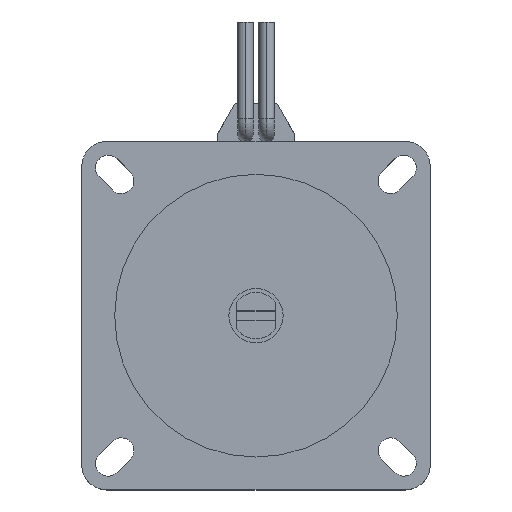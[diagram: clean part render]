
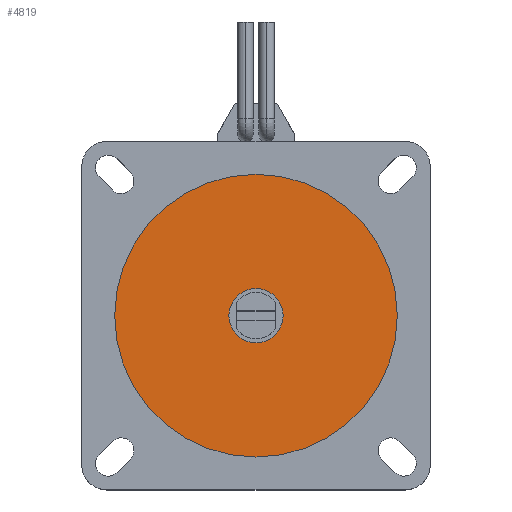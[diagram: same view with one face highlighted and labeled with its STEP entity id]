
A CAD part, top view. The second image highlights one B-rep face of the part: STEP entity #4819.
In plain terms, the highlighted planar face has unit normal (0, 0, 1).
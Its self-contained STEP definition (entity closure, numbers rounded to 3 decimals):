
#197 = EDGE_CURVE ( 'NONE', #6141, #2565, #4468, .T. ) ;
#198 = CARTESIAN_POINT ( 'NONE',  ( 0., 0., 132.5 ) ) ;
#304 = ORIENTED_EDGE ( 'NONE', *, *, #1833, .F. ) ;
#516 = DIRECTION ( 'NONE',  ( 0., 0., 1. ) ) ;
#531 = AXIS2_PLACEMENT_3D ( 'NONE', #198, #1913, #3427 ) ;
#667 = EDGE_LOOP ( 'NONE', ( #304, #5837 ) ) ;
#838 = DIRECTION ( 'NONE',  ( 0., -1., 0. ) ) ;
#1186 = DIRECTION ( 'NONE',  ( 0., 0., 1. ) ) ;
#1328 = VERTEX_POINT ( 'NONE', #6369 ) ;
#1534 = EDGE_LOOP ( 'NONE', ( #1615, #2817 ) ) ;
#1615 = ORIENTED_EDGE ( 'NONE', *, *, #4643, .T. ) ;
#1656 = EDGE_CURVE ( 'NONE', #2502, #1328, #4680, .T. ) ;
#1833 = EDGE_CURVE ( 'NONE', #2565, #6141, #6059, .T. ) ;
#1913 = DIRECTION ( 'NONE',  ( 0., 0., 1. ) ) ;
#2502 = VERTEX_POINT ( 'NONE', #3212 ) ;
#2565 = VERTEX_POINT ( 'NONE', #3808 ) ;
#2737 = DIRECTION ( 'NONE',  ( -1., 0., 0. ) ) ;
#2817 = ORIENTED_EDGE ( 'NONE', *, *, #1656, .T. ) ;
#2931 = FACE_OUTER_BOUND ( 'NONE', #1534, .T. ) ;
#3071 = DIRECTION ( 'NONE',  ( 1., 0., 0. ) ) ;
#3075 = FACE_BOUND ( 'NONE', #667, .T. ) ;
#3212 = CARTESIAN_POINT ( 'NONE',  ( -36.5, 0., 132.5 ) ) ;
#3222 = AXIS2_PLACEMENT_3D ( 'NONE', #3282, #6465, #5432 ) ;
#3238 = AXIS2_PLACEMENT_3D ( 'NONE', #5967, #1186, #2737 ) ;
#3282 = CARTESIAN_POINT ( 'NONE',  ( 0., 0., 132.5 ) ) ;
#3427 = DIRECTION ( 'NONE',  ( -1., 0., 0. ) ) ;
#3808 = CARTESIAN_POINT ( 'NONE',  ( -7., 0., 132.5 ) ) ;
#4468 = CIRCLE ( 'NONE', #3238, 7. ) ;
#4514 = CARTESIAN_POINT ( 'NONE',  ( 7., 0., 132.5 ) ) ;
#4643 = EDGE_CURVE ( 'NONE', #1328, #2502, #5586, .T. ) ;
#4680 = CIRCLE ( 'NONE', #5349, 36.5 ) ;
#4819 = ADVANCED_FACE ( 'NONE', ( #3075, #2931 ), #5121, .F. ) ;
#4919 = AXIS2_PLACEMENT_3D ( 'NONE', #6649, #6143, #838 ) ;
#5121 = PLANE ( 'NONE',  #4919 ) ;
#5318 = CARTESIAN_POINT ( 'NONE',  ( 0., 0., 132.5 ) ) ;
#5349 = AXIS2_PLACEMENT_3D ( 'NONE', #5318, #516, #3071 ) ;
#5432 = DIRECTION ( 'NONE',  ( 1., 0., 0. ) ) ;
#5586 = CIRCLE ( 'NONE', #3222, 36.5 ) ;
#5837 = ORIENTED_EDGE ( 'NONE', *, *, #197, .F. ) ;
#5967 = CARTESIAN_POINT ( 'NONE',  ( 0., 0., 132.5 ) ) ;
#6059 = CIRCLE ( 'NONE', #531, 7. ) ;
#6141 = VERTEX_POINT ( 'NONE', #4514 ) ;
#6143 = DIRECTION ( 'NONE',  ( 0., 0., -1. ) ) ;
#6369 = CARTESIAN_POINT ( 'NONE',  ( 36.5, 0., 132.5 ) ) ;
#6465 = DIRECTION ( 'NONE',  ( 0., 0., 1. ) ) ;
#6649 = CARTESIAN_POINT ( 'NONE',  ( 0., 0., 132.5 ) ) ;
